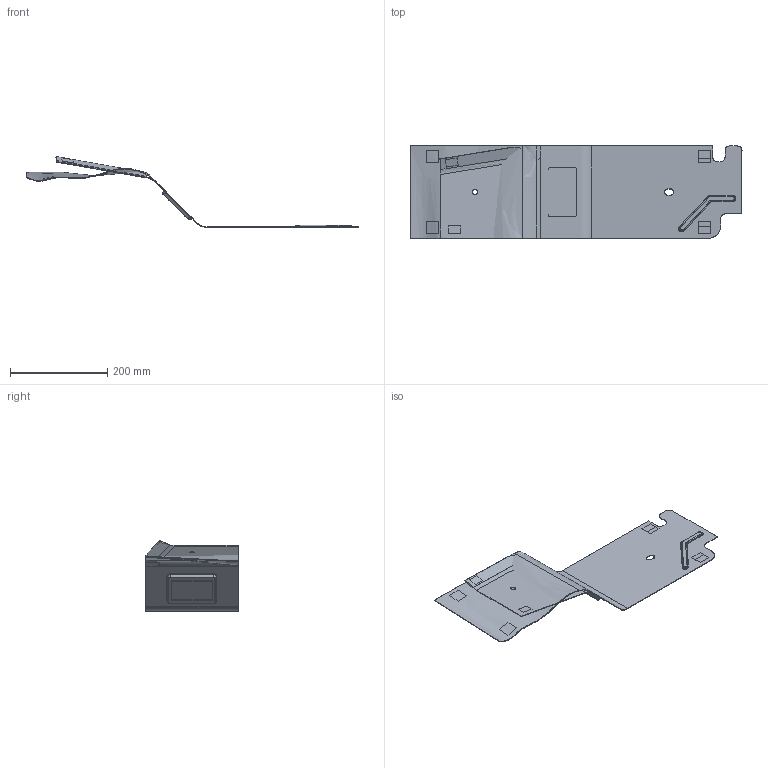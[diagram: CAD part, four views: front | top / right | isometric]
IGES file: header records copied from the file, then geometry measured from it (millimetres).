
Start section:  Level              Description ========  ================================        1  Arm Rest        3  Chg_B        2  Nets
Bounding box: 683.76 x 190.24 x 146.07 mm (x, y, z)
Surface area: 1025842.2 mm2 (no closed solid volume)
Topology: 0 solids, 0 shells, 179 faces, 914 edges, 922 vertices
Faces by surface type: bspline 179
